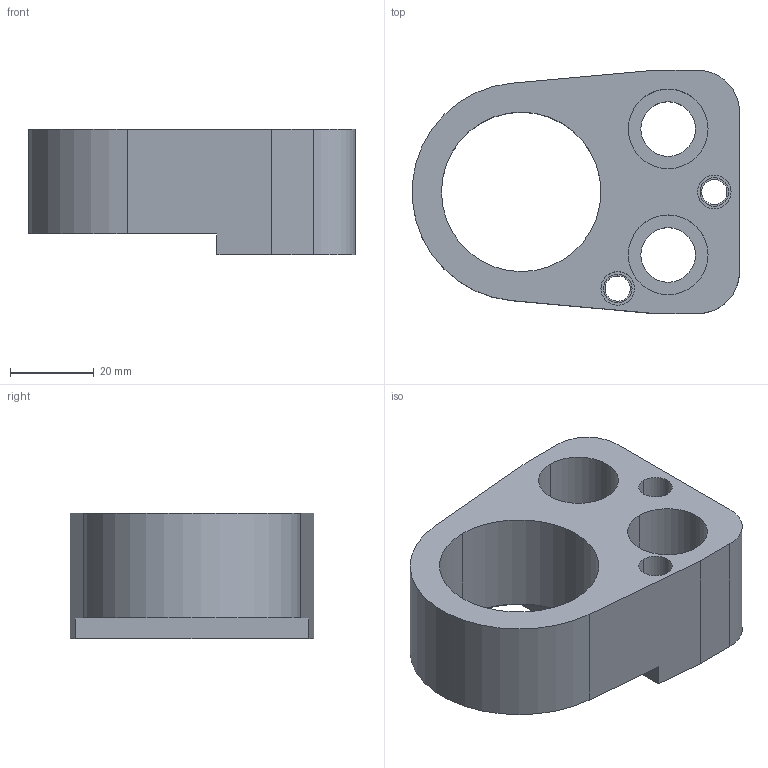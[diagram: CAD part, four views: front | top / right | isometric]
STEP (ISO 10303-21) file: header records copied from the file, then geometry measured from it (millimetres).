
FILE_DESCRIPTION(/* description */ (''),/* implementation_level */ '2;1');
FILE_NAME(/* name */ '3d_dp-fn38_03702_r00.stp',/* time_stamp */ '2011-01-10T14:15:56+09:00',/* author */ ('MISUMI'),/* organization */ (''),/* preprocessor_version */ 'ST-DEVELOPER v11',/* originating_system */ 'UGS - NX 5.0',/* authorisation */ '');
FILE_SCHEMA (('CONFIG_CONTROL_DESIGN'));
Length unit declared in the file: millimetre
Products named in the file (1): 3d_dp-fn38_03702_r00
Bounding box: 77.9 x 58 x 30 mm (x, y, z)
Volume: 64851.2 mm3; surface area: 18987.3 mm2
Topology: 1 solids, 1 shells, 42 faces, 104 edges, 69 vertices
Faces by surface type: cylinder 25, plane 15, cone 2
Entity records: 1380 total; most frequent: DIRECTION 242, CARTESIAN_POINT 219, ORIENTED_EDGE 208, EDGE_CURVE 104, AXIS2_PLACEMENT_3D 96, VERTEX_POINT 69, EDGE_LOOP 57, CIRCLE 53
